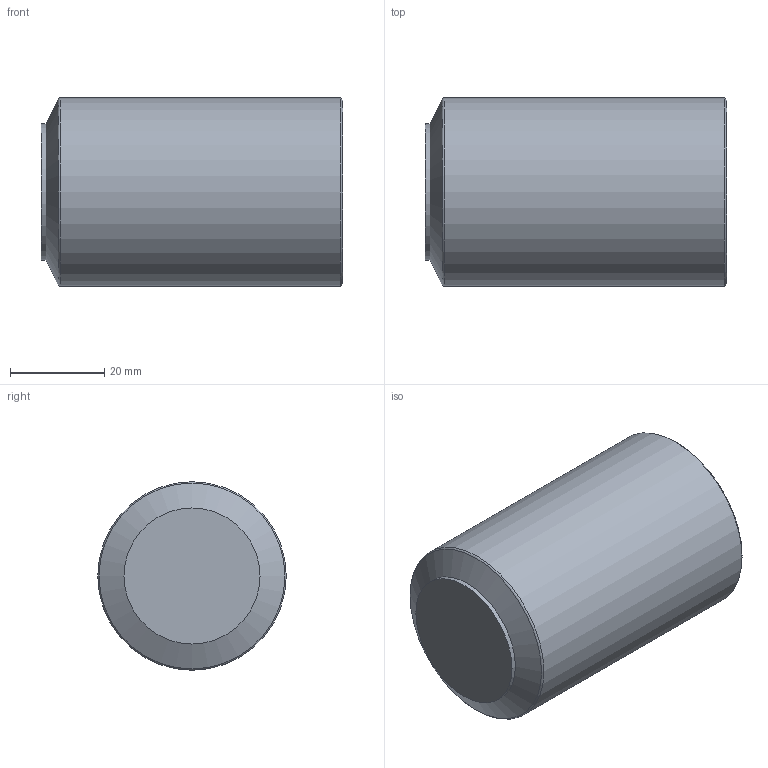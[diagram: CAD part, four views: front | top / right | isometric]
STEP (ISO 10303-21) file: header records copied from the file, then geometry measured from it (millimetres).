
FILE_DESCRIPTION(/* description */ ('Unknown'),/* implementation_level */ '2;1');
FILE_NAME(/* name */ 'CAP040H',/* time_stamp */ '2022-04-01T11:15:22+02:00',/* author */ ('Unknown'),/* organization */ ('Unknown'),/* preprocessor_version */ 'ST-DEVELOPER v18.1',/* originating_system */ 'Solid Edge',/* authorisation */ 'Unknown');
FILE_SCHEMA (('AUTOMOTIVE_DESIGN {1 0 10303 214 3 1 1}'));
Length unit declared in the file: millimetre
Products named in the file (1): CAP040H
Bounding box: 64 x 40 x 40 mm (x, y, z)
Volume: 43823.6 mm3; surface area: 14854.4 mm2
Topology: 1 solids, 1 shells, 10 faces, 20 edges, 12 vertices
Faces by surface type: torus 4, cylinder 3, plane 2, cone 1
Full cylindrical faces by diameter (mm): 28.888 x1, 29 x1, 40 x1
Entity records: 228 total; most frequent: DIRECTION 40, CARTESIAN_POINT 30, AXIS2_PLACEMENT_3D 20, FACE_BOUND 19, ORIENTED_EDGE 18, EDGE_LOOP 18, VERTEX_POINT 10, ADVANCED_FACE 10
